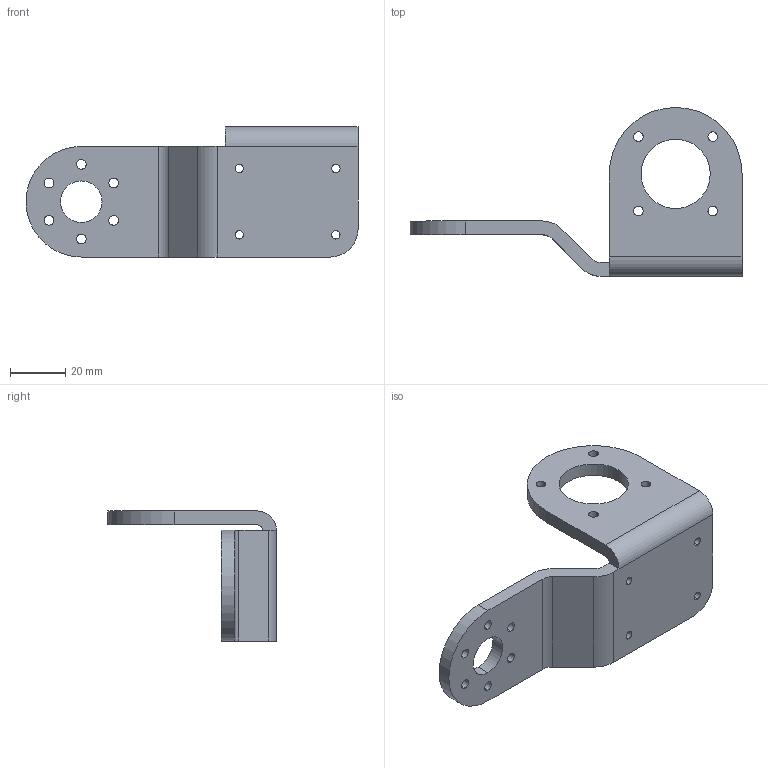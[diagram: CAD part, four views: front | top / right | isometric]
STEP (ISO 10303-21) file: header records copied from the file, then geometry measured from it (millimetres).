
FILE_DESCRIPTION (( 'STEP AP203' ), '1' );
FILE_NAME ('侐拻粣蟀諉璃.STEP', '2024-12-25T03:18:52', ( '' ), ( '' ), 'SwSTEP 2.0', 'SolidWorks 2022', '' );
FILE_SCHEMA (( 'CONFIG_CONTROL_DESIGN' ));
Length unit declared in the file: millimetre
Products named in the file (1): 侐拻粣蟀諉璃
Bounding box: 120 x 61 x 47 mm (x, y, z)
Volume: 33607.8 mm3; surface area: 16865.8 mm2
Topology: 1 solids, 1 shells, 53 faces, 151 edges, 100 vertices
Faces by surface type: cylinder 41, plane 12
Entity records: 1912 total; most frequent: DIRECTION 341, CARTESIAN_POINT 305, ORIENTED_EDGE 302, EDGE_CURVE 151, AXIS2_PLACEMENT_3D 136, VERTEX_POINT 100, EDGE_LOOP 85, CIRCLE 82
